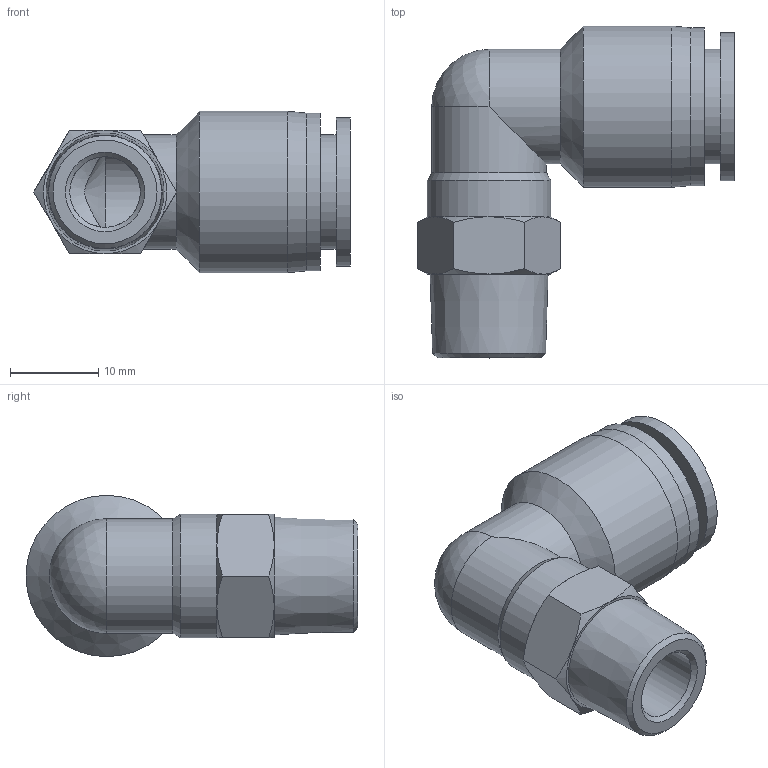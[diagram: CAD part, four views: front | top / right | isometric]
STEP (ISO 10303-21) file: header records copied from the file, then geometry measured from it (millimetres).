
FILE_DESCRIPTION((''),'2;1');
FILE_NAME('S:\UTecnico\ArchivioUT\Speciali Clienti\Speciali KONFIT\DISEGNI 3D\RP\RP 72K\RP72K1410.stp','2012-05-24T09:12:28',('UT5'),(''),'Autodesk Inventor 2012','Autodesk Inventor 2012','');
FILE_SCHEMA(('AUTOMOTIVE_DESIGN { 1 0 10303 214 1 1 1 1 }'));
Length unit declared in the file: millimetre
Products named in the file (1): RP72K1410
Bounding box: 35.88 x 37.65 x 18.3 mm (x, y, z)
Volume: 6249.2 mm3; surface area: 4662 mm2
Topology: 1 solids, 1 shells, 41 faces, 88 edges, 52 vertices
Faces by surface type: cone 20, plane 11, cylinder 9, sphere 1
Full cylindrical faces by diameter (mm): 8 x1, 10 x1, 13 x3, 14 x1, 16.8 x1, 17.9 x1, 18.3 x1
Entity records: 1049 total; most frequent: CARTESIAN_POINT 253, DIRECTION 158, ORIENTED_EDGE 136, AXIS2_PLACEMENT_3D 76, EDGE_CURVE 68, EDGE_LOOP 61, VERTEX_POINT 47, FACE_OUTER_BOUND 41
